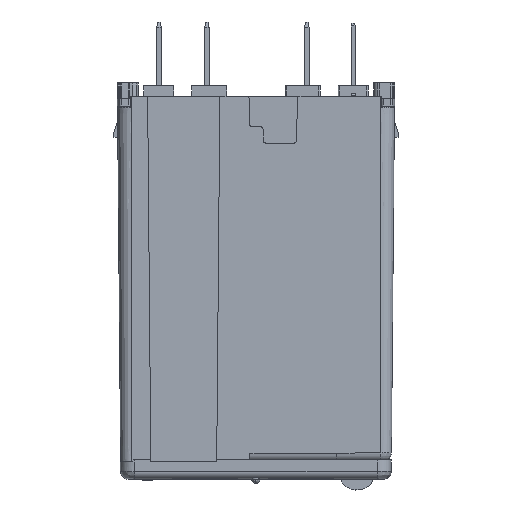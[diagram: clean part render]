
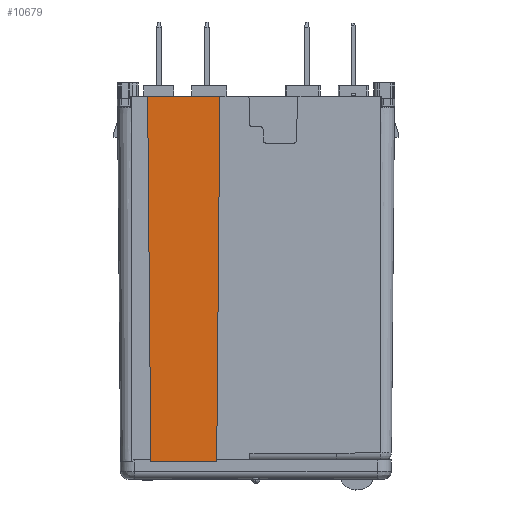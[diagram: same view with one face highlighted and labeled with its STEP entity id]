
A CAD part, left-side view. The second image highlights one B-rep face of the part: STEP entity #10679.
In plain terms, the highlighted planar face has unit normal (-1, 0, -0.009).
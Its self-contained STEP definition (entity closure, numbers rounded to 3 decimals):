
#522 = VECTOR ( 'NONE', #12700, 1000. ) ;
#664 = EDGE_CURVE ( 'NONE', #24951, #13692, #24444, .T. ) ;
#1460 = CARTESIAN_POINT ( 'NONE',  ( -11.25, 6.4, 1.75 ) ) ;
#3329 = CARTESIAN_POINT ( 'NONE',  ( -10.685, 6.965, -62.948 ) ) ;
#3621 = LINE ( 'NONE', #14859, #19440 ) ;
#3790 = DIRECTION ( 'NONE',  ( 0., 1., 0. ) ) ;
#3936 = PLANE ( 'NONE',  #25919 ) ;
#5065 = CARTESIAN_POINT ( 'NONE',  ( -11.25, 22.05, 1.75 ) ) ;
#5557 = EDGE_CURVE ( 'NONE', #18421, #24951, #15081, .T. ) ;
#6717 = CARTESIAN_POINT ( 'NONE',  ( -10.685, 18.635, -62.95 ) ) ;
#6941 = CARTESIAN_POINT ( 'NONE',  ( -10.685, 14.942, -62.949 ) ) ;
#8412 = DIRECTION ( 'NONE',  ( 0.009, 0., -1. ) ) ;
#8988 = FACE_OUTER_BOUND ( 'NONE', #24213, .T. ) ;
#10679 = ADVANCED_FACE ( 'NONE', ( #8988 ), #3936, .F. ) ;
#11025 = VERTEX_POINT ( 'NONE', #1460 ) ;
#11035 = VECTOR ( 'NONE', #28665, 1000. ) ;
#12700 = DIRECTION ( 'NONE',  ( -0.009, 0.009, 1. ) ) ;
#12738 = CARTESIAN_POINT ( 'NONE',  ( -10.685, 18.635, -62.95 ) ) ;
#13692 = VERTEX_POINT ( 'NONE', #14893 ) ;
#14064 = DIRECTION ( 'NONE',  ( 0., 1., 0. ) ) ;
#14177 = VECTOR ( 'NONE', #14064, 1000. ) ;
#14229 = EDGE_CURVE ( 'NONE', #23351, #18421, #3621, .T. ) ;
#14362 = DIRECTION ( 'NONE',  ( 0., 1., 0. ) ) ;
#14404 = CARTESIAN_POINT ( 'NONE',  ( -10.685, 22.05, -62.95 ) ) ;
#14859 = CARTESIAN_POINT ( 'NONE',  ( -10.685, 22.05, -62.948 ) ) ;
#14893 = CARTESIAN_POINT ( 'NONE',  ( -11.25, 19.2, 1.75 ) ) ;
#15081 = LINE ( 'NONE', #14404, #27003 ) ;
#17002 = LINE ( 'NONE', #26505, #11035 ) ;
#18421 = VERTEX_POINT ( 'NONE', #6941 ) ;
#18608 = ORIENTED_EDGE ( 'NONE', *, *, #14229, .F. ) ;
#19440 = VECTOR ( 'NONE', #3790, 1000. ) ;
#19660 = CARTESIAN_POINT ( 'NONE',  ( -10.685, 6.965, -62.95 ) ) ;
#20183 = ORIENTED_EDGE ( 'NONE', *, *, #21545, .T. ) ;
#20190 = LINE ( 'NONE', #5065, #14177 ) ;
#20401 = EDGE_CURVE ( 'NONE', #11025, #23351, #17002, .T. ) ;
#21545 = EDGE_CURVE ( 'NONE', #11025, #13692, #20190, .T. ) ;
#21926 = DIRECTION ( 'NONE',  ( 1., 0., 0.009 ) ) ;
#22061 = ORIENTED_EDGE ( 'NONE', *, *, #5557, .F. ) ;
#22465 = ORIENTED_EDGE ( 'NONE', *, *, #20401, .F. ) ;
#23351 = VERTEX_POINT ( 'NONE', #3329 ) ;
#24213 = EDGE_LOOP ( 'NONE', ( #20183, #28878, #22061, #18608, #22465 ) ) ;
#24444 = LINE ( 'NONE', #12738, #522 ) ;
#24951 = VERTEX_POINT ( 'NONE', #6717 ) ;
#25919 = AXIS2_PLACEMENT_3D ( 'NONE', #19660, #21926, #8412 ) ;
#26505 = CARTESIAN_POINT ( 'NONE',  ( -11.25, 6.4, 1.75 ) ) ;
#27003 = VECTOR ( 'NONE', #14362, 1000. ) ;
#28665 = DIRECTION ( 'NONE',  ( 0.009, 0.009, -1. ) ) ;
#28878 = ORIENTED_EDGE ( 'NONE', *, *, #664, .F. ) ;
